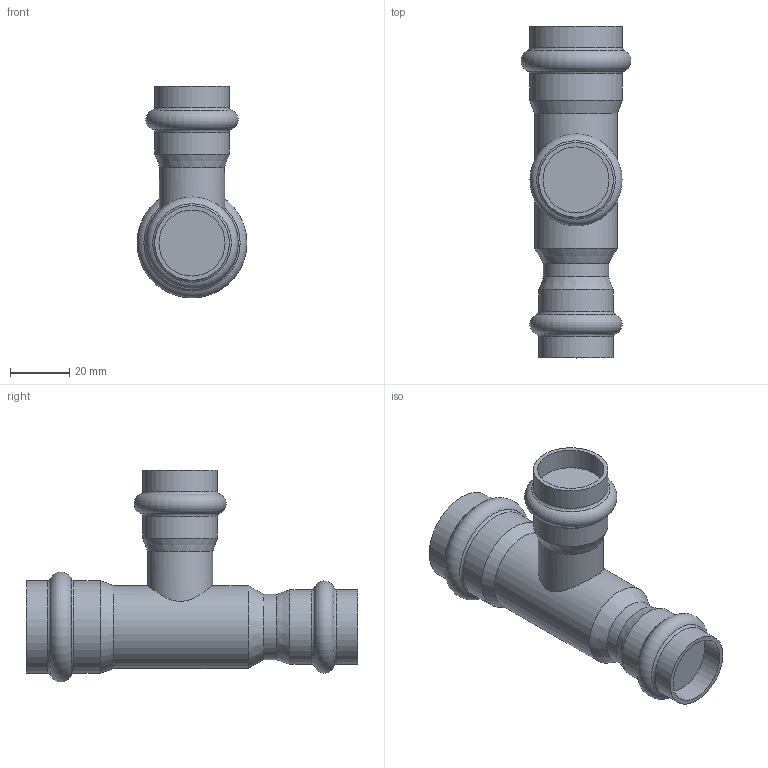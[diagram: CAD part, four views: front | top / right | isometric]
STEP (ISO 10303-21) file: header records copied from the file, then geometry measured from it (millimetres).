
FILE_DESCRIPTION(('STEP AP203'), '1');
FILE_NAME('VTi.931.I.282222', '', ('UNSPECIFIED'), ('UNSPECIFIED'), 'C3D Converter', 'C3D Toolkit', '');
FILE_SCHEMA(('CONFIG_CONTROL_DESIGN'));
Length unit declared in the file: millimetre
Bounding box: 37.09 x 112 x 71.55 mm (x, y, z)
Volume: 80380.9 mm3; surface area: 16987.6 mm2
Topology: 1 solids, 1 shells, 31 faces, 56 edges, 31 vertices
Faces by surface type: cylinder 12, torus 9, plane 6, cone 4
Full cylindrical faces by diameter (mm): 22 x2, 22.3 x2, 25.2 x4, 28 x1, 28.3 x1, 31.26 x2
Entity records: 797 total; most frequent: CARTESIAN_POINT 230, DIRECTION 124, AXIS2_PLACEMENT_3D 62, ORIENTED_EDGE 62, EDGE_LOOP 60, FACE_OUTER_BOUND 48, ADVANCED_FACE 31, EDGE_CURVE 31
